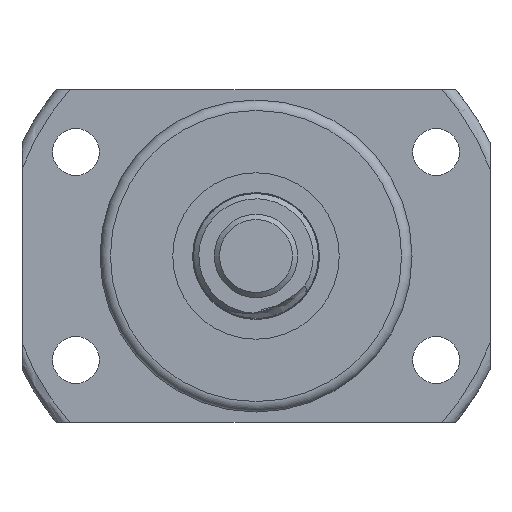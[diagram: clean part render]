
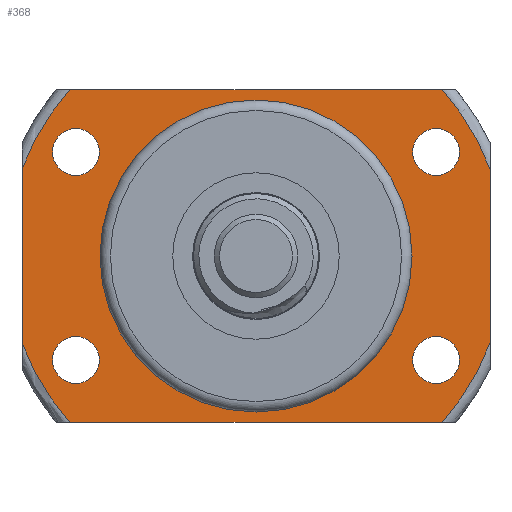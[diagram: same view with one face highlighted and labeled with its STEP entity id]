
A CAD part, left-side view. The second image highlights one B-rep face of the part: STEP entity #368.
In plain terms, the highlighted planar face has unit normal (-1, 0, 0).
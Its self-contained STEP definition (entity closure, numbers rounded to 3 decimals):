
#42 = CARTESIAN_POINT ( 'NONE',  ( -100., 17.32, 10. ) ) ;
#233 = VERTEX_POINT ( 'NONE', #5655 ) ;
#368 = ADVANCED_FACE ( 'NONE', ( #2545, #5284, #4092, #2955, #4651, #4195 ), #2993, .F. ) ;
#411 = CARTESIAN_POINT ( 'NONE',  ( -100., -17.32, -12.25 ) ) ;
#421 = EDGE_CURVE ( 'NONE', #233, #6070, #1305, .T. ) ;
#431 = EDGE_CURVE ( 'NONE', #5816, #807, #3657, .T. ) ;
#662 = EDGE_CURVE ( 'NONE', #5816, #4634, #5673, .T. ) ;
#807 = VERTEX_POINT ( 'NONE', #4264 ) ;
#825 = DIRECTION ( 'NONE',  ( 0., -1., 0. ) ) ;
#927 = DIRECTION ( 'NONE',  ( 1., 0., 0. ) ) ;
#982 = ORIENTED_EDGE ( 'NONE', *, *, #3040, .T. ) ;
#1041 = VECTOR ( 'NONE', #3276, 1000. ) ;
#1042 = DIRECTION ( 'NONE',  ( 1., 0., 0. ) ) ;
#1305 = LINE ( 'NONE', #6458, #2957 ) ;
#1319 = CIRCLE ( 'NONE', #7209, 2.25 ) ;
#1340 = DIRECTION ( 'NONE',  ( 1., 0., 0. ) ) ;
#1355 = CARTESIAN_POINT ( 'NONE',  ( -100., -17.32, 10. ) ) ;
#1361 = ORIENTED_EDGE ( 'NONE', *, *, #5808, .T. ) ;
#1389 = DIRECTION ( 'NONE',  ( 0., 0., -1. ) ) ;
#1395 = EDGE_LOOP ( 'NONE', ( #3160, #6738, #5009, #6297, #3741, #4856, #5428, #2047 ) ) ;
#1446 = CARTESIAN_POINT ( 'NONE',  ( -100., 0., 0. ) ) ;
#1461 = ORIENTED_EDGE ( 'NONE', *, *, #2992, .T. ) ;
#1500 = AXIS2_PLACEMENT_3D ( 'NONE', #2217, #1042, #6721 ) ;
#1617 = EDGE_LOOP ( 'NONE', ( #982 ) ) ;
#1665 = DIRECTION ( 'NONE',  ( 0., 0., -1. ) ) ;
#1676 = EDGE_CURVE ( 'NONE', #6005, #6005, #1319, .T. ) ;
#1820 = CARTESIAN_POINT ( 'NONE',  ( -100., 0., 0. ) ) ;
#1867 = CIRCLE ( 'NONE', #5638, 15. ) ;
#1869 = CARTESIAN_POINT ( 'NONE',  ( -100., 22.5, 8.352 ) ) ;
#2029 = DIRECTION ( 'NONE',  ( 0., 0., 1. ) ) ;
#2030 = DIRECTION ( 'NONE',  ( 0., 0., -1. ) ) ;
#2047 = ORIENTED_EDGE ( 'NONE', *, *, #3302, .F. ) ;
#2130 = VECTOR ( 'NONE', #6950, 1000. ) ;
#2211 = CARTESIAN_POINT ( 'NONE',  ( -100., 17.32, -12.25 ) ) ;
#2217 = CARTESIAN_POINT ( 'NONE',  ( -100., 17.32, -10. ) ) ;
#2328 = CIRCLE ( 'NONE', #6446, 24. ) ;
#2334 = AXIS2_PLACEMENT_3D ( 'NONE', #1446, #927, #5940 ) ;
#2373 = DIRECTION ( 'NONE',  ( 1., 0., 0. ) ) ;
#2491 = DIRECTION ( 'NONE',  ( 1., 0., 0. ) ) ;
#2545 = FACE_BOUND ( 'NONE', #6404, .T. ) ;
#2762 = CARTESIAN_POINT ( 'NONE',  ( -100., 17.32, 7.75 ) ) ;
#2833 = VERTEX_POINT ( 'NONE', #2762 ) ;
#2869 = VERTEX_POINT ( 'NONE', #4564 ) ;
#2955 = FACE_BOUND ( 'NONE', #7298, .T. ) ;
#2957 = VECTOR ( 'NONE', #825, 1000. ) ;
#2992 = EDGE_CURVE ( 'NONE', #2869, #2869, #4909, .T. ) ;
#2993 = PLANE ( 'NONE',  #6972 ) ;
#3040 = EDGE_CURVE ( 'NONE', #5127, #5127, #6688, .T. ) ;
#3136 = EDGE_CURVE ( 'NONE', #5304, #807, #5741, .T. ) ;
#3160 = ORIENTED_EDGE ( 'NONE', *, *, #421, .F. ) ;
#3264 = CIRCLE ( 'NONE', #4319, 2.25 ) ;
#3276 = DIRECTION ( 'NONE',  ( 0., 0., 1. ) ) ;
#3302 = EDGE_CURVE ( 'NONE', #6070, #3381, #2328, .T. ) ;
#3381 = VERTEX_POINT ( 'NONE', #3512 ) ;
#3426 = LINE ( 'NONE', #7237, #1041 ) ;
#3464 = CARTESIAN_POINT ( 'NONE',  ( -100., 0., -15. ) ) ;
#3466 = CARTESIAN_POINT ( 'NONE',  ( -100., 17.889, -16. ) ) ;
#3512 = CARTESIAN_POINT ( 'NONE',  ( -100., -22.5, 8.352 ) ) ;
#3584 = DIRECTION ( 'NONE',  ( 0., 0., -1. ) ) ;
#3638 = CIRCLE ( 'NONE', #2334, 24. ) ;
#3657 = LINE ( 'NONE', #6989, #2130 ) ;
#3733 = EDGE_CURVE ( 'NONE', #5304, #3381, #4831, .T. ) ;
#3741 = ORIENTED_EDGE ( 'NONE', *, *, #431, .T. ) ;
#3757 = CARTESIAN_POINT ( 'NONE',  ( -100., -22.5, 0. ) ) ;
#3827 = DIRECTION ( 'NONE',  ( 0., 0., -1. ) ) ;
#4060 = DIRECTION ( 'NONE',  ( 0., 0., -1. ) ) ;
#4092 = FACE_BOUND ( 'NONE', #6893, .T. ) ;
#4158 = EDGE_CURVE ( 'NONE', #2833, #2833, #3264, .T. ) ;
#4195 = FACE_OUTER_BOUND ( 'NONE', #1395, .T. ) ;
#4264 = CARTESIAN_POINT ( 'NONE',  ( -100., -17.889, -16. ) ) ;
#4319 = AXIS2_PLACEMENT_3D ( 'NONE', #42, #5644, #1665 ) ;
#4356 = CARTESIAN_POINT ( 'NONE',  ( -100., -17.889, 16. ) ) ;
#4359 = EDGE_CURVE ( 'NONE', #4634, #6808, #3426, .T. ) ;
#4363 = CARTESIAN_POINT ( 'NONE',  ( -100., -17.32, -10. ) ) ;
#4519 = ORIENTED_EDGE ( 'NONE', *, *, #4158, .T. ) ;
#4564 = CARTESIAN_POINT ( 'NONE',  ( -100., -17.32, 7.75 ) ) ;
#4634 = VERTEX_POINT ( 'NONE', #5951 ) ;
#4651 = FACE_BOUND ( 'NONE', #7154, .T. ) ;
#4793 = DIRECTION ( 'NONE',  ( 0., 1., 0. ) ) ;
#4831 = LINE ( 'NONE', #3757, #5040 ) ;
#4832 = CARTESIAN_POINT ( 'NONE',  ( -100., 0., 0. ) ) ;
#4856 = ORIENTED_EDGE ( 'NONE', *, *, #3136, .F. ) ;
#4894 = CARTESIAN_POINT ( 'NONE',  ( -100., 0., 0. ) ) ;
#4909 = CIRCLE ( 'NONE', #5972, 2.25 ) ;
#5009 = ORIENTED_EDGE ( 'NONE', *, *, #4359, .F. ) ;
#5040 = VECTOR ( 'NONE', #2029, 1000. ) ;
#5127 = VERTEX_POINT ( 'NONE', #2211 ) ;
#5249 = DIRECTION ( 'NONE',  ( 1., 0., 0. ) ) ;
#5284 = FACE_BOUND ( 'NONE', #1617, .T. ) ;
#5304 = VERTEX_POINT ( 'NONE', #6175 ) ;
#5428 = ORIENTED_EDGE ( 'NONE', *, *, #3733, .T. ) ;
#5448 = ORIENTED_EDGE ( 'NONE', *, *, #1676, .T. ) ;
#5630 = DIRECTION ( 'NONE',  ( 1., 0., 0. ) ) ;
#5638 = AXIS2_PLACEMENT_3D ( 'NONE', #4832, #7095, #2030 ) ;
#5644 = DIRECTION ( 'NONE',  ( 1., 0., 0. ) ) ;
#5655 = CARTESIAN_POINT ( 'NONE',  ( -100., 17.889, 16. ) ) ;
#5673 = CIRCLE ( 'NONE', #6611, 24. ) ;
#5686 = EDGE_CURVE ( 'NONE', #6808, #233, #3638, .T. ) ;
#5741 = CIRCLE ( 'NONE', #6331, 24. ) ;
#5808 = EDGE_CURVE ( 'NONE', #6269, #6269, #1867, .T. ) ;
#5816 = VERTEX_POINT ( 'NONE', #3466 ) ;
#5903 = CARTESIAN_POINT ( 'NONE',  ( -100., 0., 0. ) ) ;
#5940 = DIRECTION ( 'NONE',  ( 0., 0., -1. ) ) ;
#5951 = CARTESIAN_POINT ( 'NONE',  ( -100., 22.5, -8.352 ) ) ;
#5972 = AXIS2_PLACEMENT_3D ( 'NONE', #1355, #2491, #1389 ) ;
#6005 = VERTEX_POINT ( 'NONE', #411 ) ;
#6036 = DIRECTION ( 'NONE',  ( 1., 0., 0. ) ) ;
#6070 = VERTEX_POINT ( 'NONE', #4356 ) ;
#6175 = CARTESIAN_POINT ( 'NONE',  ( -100., -22.5, -8.352 ) ) ;
#6269 = VERTEX_POINT ( 'NONE', #3464 ) ;
#6297 = ORIENTED_EDGE ( 'NONE', *, *, #662, .F. ) ;
#6331 = AXIS2_PLACEMENT_3D ( 'NONE', #5903, #2373, #3584 ) ;
#6404 = EDGE_LOOP ( 'NONE', ( #1361 ) ) ;
#6446 = AXIS2_PLACEMENT_3D ( 'NONE', #1820, #5249, #4060 ) ;
#6458 = CARTESIAN_POINT ( 'NONE',  ( -100., 19.5, 16. ) ) ;
#6611 = AXIS2_PLACEMENT_3D ( 'NONE', #4894, #6036, #3827 ) ;
#6688 = CIRCLE ( 'NONE', #1500, 2.25 ) ;
#6721 = DIRECTION ( 'NONE',  ( 0., 0., -1. ) ) ;
#6738 = ORIENTED_EDGE ( 'NONE', *, *, #5686, .F. ) ;
#6808 = VERTEX_POINT ( 'NONE', #1869 ) ;
#6893 = EDGE_LOOP ( 'NONE', ( #4519 ) ) ;
#6910 = CARTESIAN_POINT ( 'NONE',  ( -100., 19.5, 0. ) ) ;
#6950 = DIRECTION ( 'NONE',  ( 0., -1., 0. ) ) ;
#6972 = AXIS2_PLACEMENT_3D ( 'NONE', #6910, #1340, #4793 ) ;
#6989 = CARTESIAN_POINT ( 'NONE',  ( -100., 19.5, -16. ) ) ;
#7095 = DIRECTION ( 'NONE',  ( 1., 0., 0. ) ) ;
#7154 = EDGE_LOOP ( 'NONE', ( #5448 ) ) ;
#7209 = AXIS2_PLACEMENT_3D ( 'NONE', #4363, #5630, #7223 ) ;
#7223 = DIRECTION ( 'NONE',  ( 0., 0., -1. ) ) ;
#7237 = CARTESIAN_POINT ( 'NONE',  ( -100., 22.5, 0. ) ) ;
#7298 = EDGE_LOOP ( 'NONE', ( #1461 ) ) ;
